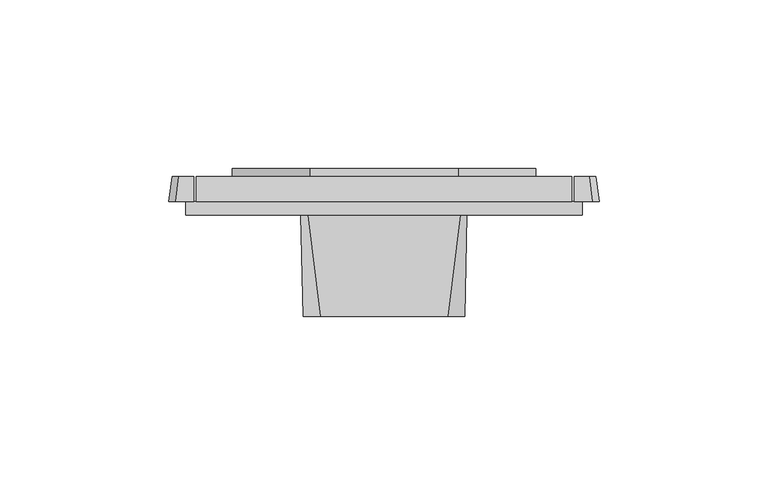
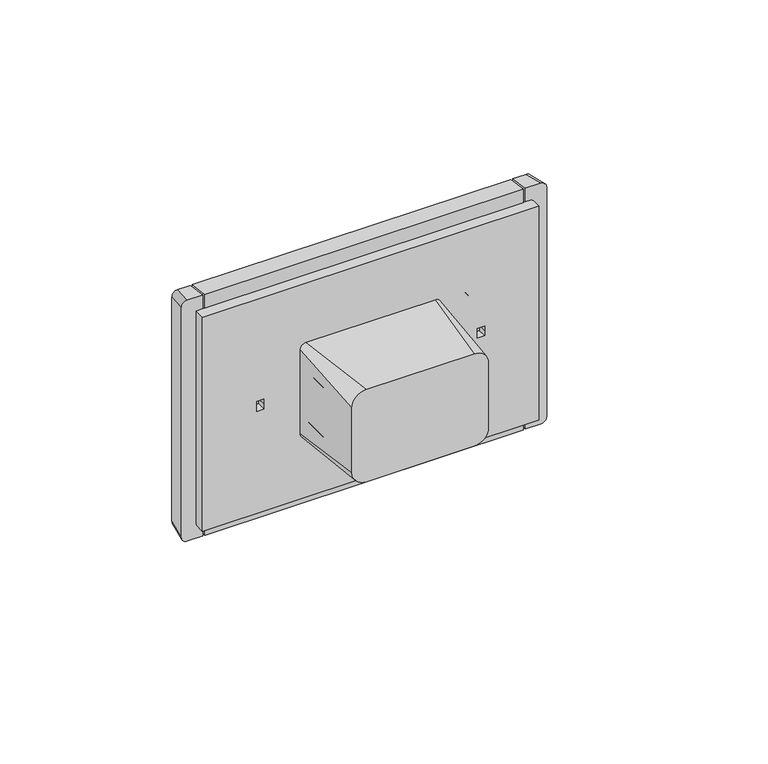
"""IFC4 building model written with IfcOpenShell, lengths in millimetres: proxy geometry, IEK_Forte&Piano_Розекта 2гн : 230В_FP126."""

from ifc_helpers import new_model, si_unit, point, frame, frame_2d, origin, place, context, project, spatial, polyline, circle_curve, ellipse_curve, trimmed, segment, composite_curve, outline, extrude, source, transform, mapped, element, save
from ifc_brep_helpers import plane_surface, cylinder_surface, revolved_surface, extruded_surface, spline_surface, advanced_brep


def electrical_fixtures_b7254b5a(model_context):
    return source(origin(), model_context, "Body", "SolidModel", [
        extrude(outline(composite_curve([segment(trimmed(circle_curve(frame_2d((0.0, -20.5)), 20.0), [point((20.0, -20.5))], [point((-20.0, -20.5))], False, "CARTESIAN"), True, "CONTINUOUS"), segment(trimmed(circle_curve(frame_2d((0.0, -20.5)), 20.0), [point((-20.0, -20.5))], [point((20.0, -20.5))], False, "CARTESIAN"), True, "CONTINUOUS")], self_intersect=False), holes=[composite_curve([segment(trimmed(circle_curve(frame_2d((-9.13292, -20.5)), 2.7424417), [point((-6.3904783, -20.5))], [point((-11.8753617, -20.5))], True, "CARTESIAN"), True, "CONTINUOUS"), segment(trimmed(circle_curve(frame_2d((-9.13292, -20.5)), 2.7424417), [point((-11.8753617, -20.5))], [point((-6.3904783, -20.5))], True, "CARTESIAN"), True, "CONTINUOUS")], self_intersect=False), composite_curve([segment(trimmed(circle_curve(frame_2d((9.13292, -20.5)), 2.7424417), [point((11.8753617, -20.5))], [point((6.3904783, -20.5))], True, "CARTESIAN"), True, "CONTINUOUS"), segment(trimmed(circle_curve(frame_2d((9.13292, -20.5)), 2.7424417), [point((6.3904783, -20.5))], [point((11.8753617, -20.5))], True, "CARTESIAN"), True, "CONTINUOUS")], self_intersect=False), composite_curve([segment(trimmed(circle_curve(frame_2d((0.0, -20.5)), 3.0105286), [point((3.0105286, -20.5))], [point((-3.0105286, -20.5))], True, "CARTESIAN"), True, "CONTINUOUS"), segment(trimmed(circle_curve(frame_2d((0.0, -20.5)), 3.0105286), [point((-3.0105286, -20.5))], [point((3.0105286, -20.5))], True, "CARTESIAN"), True, "CONTINUOUS")], self_intersect=False)]), frame((0.0, 3.5, 0.0), z_axis=(0.0, 1.0, 0.0), x_axis=(0.0, 0.0, 1.0)), (0.0, 0.0, 1.0), 0.5),
        extrude(outline(composite_curve([segment(trimmed(circle_curve(frame_2d((0.0, 20.5)), 20.0), [point((20.0, 20.5))], [point((-20.0, 20.5))], False, "CARTESIAN"), True, "CONTINUOUS"), segment(trimmed(circle_curve(frame_2d((0.0, 20.5)), 20.0), [point((-20.0, 20.5))], [point((20.0, 20.5))], False, "CARTESIAN"), True, "CONTINUOUS")], self_intersect=False), holes=[composite_curve([segment(trimmed(circle_curve(frame_2d((-9.13292, 20.5)), 2.7424417), [point((-6.3904783, 20.5))], [point((-11.8753617, 20.5))], True, "CARTESIAN"), True, "CONTINUOUS"), segment(trimmed(circle_curve(frame_2d((-9.13292, 20.5)), 2.7424417), [point((-11.8753617, 20.5))], [point((-6.3904783, 20.5))], True, "CARTESIAN"), True, "CONTINUOUS")], self_intersect=False), composite_curve([segment(trimmed(circle_curve(frame_2d((9.13292, 20.5)), 2.7424417), [point((11.8753617, 20.5))], [point((6.3904783, 20.5))], True, "CARTESIAN"), True, "CONTINUOUS"), segment(trimmed(circle_curve(frame_2d((9.13292, 20.5)), 2.7424417), [point((6.3904783, 20.5))], [point((11.8753617, 20.5))], True, "CARTESIAN"), True, "CONTINUOUS")], self_intersect=False), composite_curve([segment(trimmed(circle_curve(frame_2d((0.0, 20.5)), 3.0105286), [point((3.0105286, 20.5))], [point((-3.0105286, 20.5))], True, "CARTESIAN"), True, "CONTINUOUS"), segment(trimmed(circle_curve(frame_2d((0.0, 20.5)), 3.0105286), [point((-3.0105286, 20.5))], [point((3.0105286, 20.5))], True, "CARTESIAN"), True, "CONTINUOUS")], self_intersect=False)]), frame((0.0, 3.5, 0.0), z_axis=(0.0, 1.0, 0.0), x_axis=(0.0, 0.0, 1.0)), (0.0, 0.0, 1.0), 0.5),
        advanced_brep(
        [(23.3986917, 3.5, 0.0), (17.6013083, 3.5, 0.0), (23.3986917, 2.3156492, 0.0), (17.6013083, 2.3156492, 0.0), (20.5, 2.3156492, 0.0)],
        [
            (0, 1, circle_curve(frame((20.5, 3.5, 0.0), z_axis=(0.0, 1.0, 0.0), x_axis=(1.0, 0.0, 0.0)), 2.8986917)),
            (1, 0, circle_curve(frame((20.5, 3.5, 0.0), z_axis=(0.0, 1.0, 0.0), x_axis=(1.0, 0.0, 0.0)), 2.8986917)),
            (2, 3, circle_curve(frame((20.5, 2.3156492, 0.0), z_axis=(0.0, 1.0, 0.0), x_axis=(1.0, 0.0, 0.0)), 2.8986917)),
            (3, 1),
            (0, 2),
            (3, 2, circle_curve(frame((20.5, 2.3156492, 0.0), z_axis=(0.0, 1.0, 0.0), x_axis=(1.0, 0.0, 0.0)), 2.8986917)),
            (2, 4),
            (4, 3),
        ],
        [
            plane_surface(frame((-40.5, 3.5, 0.0), z_axis=(0.0, 1.0, 0.0), x_axis=(0.0, 0.0, -1.0))),
            cylinder_surface(frame((20.5, 0.9928358, 0.0), z_axis=(0.0, 1.0, 0.0), x_axis=(1.0, 0.0, 0.0)), 2.8986917),
            plane_surface(frame((20.5, 2.3156492, 0.0), z_axis=(0.0, -1.0, 0.0), x_axis=(1.0, 0.0, 0.0))),
        ],
        [
            (0, [[1, 2]]),
            (1, [[3, 4, -1, 5]]),
            (1, [[6, -5, -2, -4]]),
            (2, [[-3, 7, 8]]),
            (2, [[-6, -8, -7]]),
        ],
    ),
        extrude(outline(composite_curve([segment(trimmed(circle_curve(frame_2d((0.0, 22.0)), 23.0), [point((-23.0, 22.0))], [point((23.0, 22.0))], False, "CARTESIAN"), True, "CONTINUOUS"), segment(polyline([(23.0, 22.0), (23.0, -22.0)]), True, "CONTINUOUS"), segment(trimmed(circle_curve(frame_2d((0.0, -22.0)), 23.0), [point((23.0, -22.0))], [point((-23.0, -22.0))], False, "CARTESIAN"), True, "CONTINUOUS"), segment(polyline([(-23.0, -22.0), (-23.0, 22.0)]), True, "CONTINUOUS")], self_intersect=False), holes=[composite_curve([segment(trimmed(circle_curve(frame_2d((0.0, 20.5)), 20.0), [point((0.0, 40.5))], [point((0.0, 0.5))], True, "CARTESIAN"), True, "CONTINUOUS"), segment(trimmed(circle_curve(frame_2d((0.0, 20.5)), 20.0), [point((0.0, 0.5))], [point((0.0, 40.5))], True, "CARTESIAN"), True, "CONTINUOUS")], self_intersect=False), composite_curve([segment(trimmed(circle_curve(frame_2d((0.0, -20.5)), 20.0), [point((0.0, -0.5))], [point((0.0, -40.5))], True, "CARTESIAN"), True, "CONTINUOUS"), segment(trimmed(circle_curve(frame_2d((0.0, -20.5)), 20.0), [point((0.0, -40.5))], [point((0.0, -0.5))], True, "CARTESIAN"), True, "CONTINUOUS")], self_intersect=False)]), frame((0.0, 11.5, 0.0), z_axis=(0.0, 1.0, 0.0), x_axis=(0.0, 0.0, 1.0)), (0.0, 0.0, 1.0), 2.2960794),
        advanced_brep(
        [(18.8462421, -30.0, -17.0), (23.8462421, -30.0, -12.0), (23.8462421, -30.0, 12.0), (18.8462421, -30.0, 17.0), (-18.8537225, -30.0, 17.0), (-23.8537225, -30.0, 12.0), (-23.8537225, -30.0, -12.0), (-18.8537225, -30.0, -17.0), (22.5422228, 0.0, -17.5), (-22.5960064, 0.0, -17.5), (-24.5960064, 0.0, -15.5), (-24.5960064, 0.0, 15.5), (-22.5960064, 0.0, 17.5), (22.5422228, 0.0, 17.5), (24.5422228, 0.0, 15.5), (24.5422228, 0.0, -15.5), (20.5, 0.0, -6.3904783), (20.5, 0.0, -11.8753617), (20.5, 0.0, 3.0105286), (20.5, 0.0, -3.0105286), (20.5, 0.0, 11.8753617), (20.5, 0.0, 6.3904783), (1.1719153, 0.0, -1.7917908), (3.6719153, 0.0, -1.7917908), (3.6719153, 0.0, 0.0), (3.6719153, 0.0, 1.7917908), (1.1719153, 0.0, 1.7917908), (1.1719153, 0.0, 0.0), (-20.5, 0.0, -6.3904783), (-20.5, 0.0, -11.8753617), (-20.5, 0.0, 3.0105286), (-20.5, 0.0, -3.0105286), (-20.5, 0.0, 11.8753617), (-20.5, 0.0, 6.3904783), (-1.1719153, 0.0, -1.7917908), (-1.1719153, 0.0, 0.0), (-1.1719153, 0.0, 1.7917908), (-3.6719153, 0.0, 1.7917908), (-3.6719153, 0.0, 0.0), (-3.6719153, 0.0, -1.7917908), (20.5, -10.4962918, -6.3904783), (20.5, -10.4962918, -11.8753617), (20.5, -10.4962918, 3.0105286), (20.5, -10.4962918, -3.0105286), (20.5, -10.4962918, 11.8753617), (20.5, -10.4962918, 6.3904783), (1.1719153, -10.4962918, -1.7917908), (1.1719153, -10.4962918, 0.0), (1.1719153, -10.4962918, 1.7917908), (3.6719153, -10.4962918, 1.7917908), (3.6719153, -10.4962918, 0.0), (3.6719153, -10.4962918, -1.7917908), (-20.5, -10.4962918, -6.3904783), (-20.5, -10.4962918, -11.8753617), (-20.5, -10.4962918, 3.0105286), (-20.5, -10.4962918, -3.0105286), (-20.5, -10.4962918, 11.8753617), (-20.5, -10.4962918, 6.3904783), (-1.1719153, -10.4962918, -1.7917908), (-3.6719153, -10.4962918, -1.7917908), (-3.6719153, -10.4962918, 0.0), (-3.6719153, -10.4962918, 1.7917908), (-1.1719153, -10.4962918, 1.7917908), (-1.1719153, -10.4962918, 0.0)],
        [
            (0, 1, circle_curve(frame((18.8462421, -30.0, -12.0), z_axis=(0.0, -1.0, 0.0), x_axis=(0.0, 0.0, -1.0)), 5.0)),
            (1, 2),
            (2, 3, circle_curve(frame((18.8462421, -30.0, 12.0), z_axis=(0.0, -1.0, 0.0), x_axis=(0.0, 0.0, -1.0)), 5.0)),
            (3, 4),
            (4, 5, circle_curve(frame((-18.8537225, -30.0, 12.0), z_axis=(0.0, -1.0, 0.0), x_axis=(0.0, 0.0, -1.0)), 5.0)),
            (5, 6),
            (6, 7, circle_curve(frame((-18.8537225, -30.0, -12.0), z_axis=(0.0, -1.0, 0.0), x_axis=(0.0, 0.0, -1.0)), 5.0)),
            (7, 0),
            (8, 9),
            (9, 10, circle_curve(frame((-22.5960064, 0.0, -15.5), z_axis=(0.0, 1.0, 0.0), x_axis=(0.0, 0.0, -1.0)), 2.0)),
            (10, 11),
            (11, 12, circle_curve(frame((-22.5960064, 0.0, 15.5), z_axis=(0.0, 1.0, 0.0), x_axis=(0.0, 0.0, -1.0)), 2.0)),
            (12, 13),
            (13, 14, circle_curve(frame((22.5422228, 0.0, 15.5), z_axis=(0.0, 1.0, 0.0), x_axis=(0.0, 0.0, -1.0)), 2.0)),
            (14, 15),
            (15, 8, circle_curve(frame((22.5422228, 0.0, -15.5), z_axis=(0.0, 1.0, 0.0), x_axis=(0.0, 0.0, -1.0)), 2.0)),
            (16, 17, circle_curve(frame((20.5, 0.0, -9.13292), z_axis=(0.0, -1.0, 0.0), x_axis=(0.0, 0.0, -1.0)), 2.7424417)),
            (17, 16, circle_curve(frame((20.5, 0.0, -9.13292), z_axis=(0.0, -1.0, 0.0), x_axis=(0.0, 0.0, -1.0)), 2.7424417)),
            (18, 19, circle_curve(frame((20.5, 0.0, 0.0), z_axis=(0.0, -1.0, 0.0), x_axis=(0.0, 0.0, -1.0)), 3.0105286)),
            (19, 18, circle_curve(frame((20.5, 0.0, 0.0), z_axis=(0.0, -1.0, 0.0), x_axis=(0.0, 0.0, -1.0)), 3.0105286)),
            (20, 21, circle_curve(frame((20.5, 0.0, 9.13292), z_axis=(0.0, -1.0, 0.0), x_axis=(0.0, 0.0, -1.0)), 2.7424417)),
            (21, 20, circle_curve(frame((20.5, 0.0, 9.13292), z_axis=(0.0, -1.0, 0.0), x_axis=(0.0, 0.0, -1.0)), 2.7424417)),
            (22, 23),
            (23, 24),
            (24, 25),
            (25, 26),
            (26, 27),
            (27, 22),
            (28, 29, circle_curve(frame((-20.5, 0.0, -9.13292), z_axis=(0.0, -1.0, 0.0), x_axis=(0.0, 0.0, -1.0)), 2.7424417)),
            (29, 28, circle_curve(frame((-20.5, 0.0, -9.13292), z_axis=(0.0, -1.0, 0.0), x_axis=(0.0, 0.0, -1.0)), 2.7424417)),
            (30, 31, circle_curve(frame((-20.5, 0.0, 0.0), z_axis=(0.0, -1.0, 0.0), x_axis=(0.0, 0.0, -1.0)), 3.0105286)),
            (31, 30, circle_curve(frame((-20.5, 0.0, 0.0), z_axis=(0.0, -1.0, 0.0), x_axis=(0.0, 0.0, -1.0)), 3.0105286)),
            (32, 33, circle_curve(frame((-20.5, 0.0, 9.13292), z_axis=(0.0, -1.0, 0.0), x_axis=(0.0, 0.0, -1.0)), 2.7424417)),
            (33, 32, circle_curve(frame((-20.5, 0.0, 9.13292), z_axis=(0.0, -1.0, 0.0), x_axis=(0.0, 0.0, -1.0)), 2.7424417)),
            (34, 35),
            (35, 36),
            (36, 37),
            (37, 38),
            (38, 39),
            (39, 34),
            (7, 9),
            (8, 0),
            (6, 10),
            (5, 11),
            (4, 12),
            (3, 13),
            (15, 1),
            (14, 2),
            (40, 41, circle_curve(frame((20.5, -10.4962918, -9.13292), z_axis=(0.0, 1.0, 0.0), x_axis=(0.0, 0.0, -1.0)), 2.7424417)),
            (41, 40, circle_curve(frame((20.5, -10.4962918, -9.13292), z_axis=(0.0, 1.0, 0.0), x_axis=(0.0, 0.0, -1.0)), 2.7424417)),
            (42, 43, circle_curve(frame((20.5, -10.4962918, 0.0), z_axis=(0.0, 1.0, 0.0), x_axis=(0.0, 0.0, -1.0)), 3.0105286)),
            (43, 42, circle_curve(frame((20.5, -10.4962918, 0.0), z_axis=(0.0, 1.0, 0.0), x_axis=(0.0, 0.0, -1.0)), 3.0105286)),
            (44, 45, circle_curve(frame((20.5, -10.4962918, 9.13292), z_axis=(0.0, 1.0, 0.0), x_axis=(0.0, 0.0, -1.0)), 2.7424417)),
            (45, 44, circle_curve(frame((20.5, -10.4962918, 9.13292), z_axis=(0.0, 1.0, 0.0), x_axis=(0.0, 0.0, -1.0)), 2.7424417)),
            (46, 47),
            (47, 48),
            (48, 49),
            (49, 50),
            (50, 51),
            (51, 46),
            (52, 53, circle_curve(frame((-20.5, -10.4962918, -9.13292), z_axis=(0.0, 1.0, 0.0), x_axis=(0.0, 0.0, -1.0)), 2.7424417)),
            (53, 52, circle_curve(frame((-20.5, -10.4962918, -9.13292), z_axis=(0.0, 1.0, 0.0), x_axis=(0.0, 0.0, -1.0)), 2.7424417)),
            (54, 55, circle_curve(frame((-20.5, -10.4962918, 0.0), z_axis=(0.0, 1.0, 0.0), x_axis=(0.0, 0.0, -1.0)), 3.0105286)),
            (55, 54, circle_curve(frame((-20.5, -10.4962918, 0.0), z_axis=(0.0, 1.0, 0.0), x_axis=(0.0, 0.0, -1.0)), 3.0105286)),
            (56, 57, circle_curve(frame((-20.5, -10.4962918, 9.13292), z_axis=(0.0, 1.0, 0.0), x_axis=(0.0, 0.0, -1.0)), 2.7424417)),
            (57, 56, circle_curve(frame((-20.5, -10.4962918, 9.13292), z_axis=(0.0, 1.0, 0.0), x_axis=(0.0, 0.0, -1.0)), 2.7424417)),
            (58, 59),
            (59, 60),
            (60, 61),
            (61, 62),
            (62, 63),
            (63, 58),
            (41, 17),
            (16, 40),
            (43, 19),
            (18, 42),
            (45, 21),
            (20, 44),
            (51, 23),
            (22, 46),
            (50, 24),
            (49, 25),
            (48, 26),
            (47, 27),
            (53, 29),
            (28, 52),
            (55, 31),
            (30, 54),
            (57, 33),
            (32, 56),
            (63, 35),
            (34, 58),
            (62, 36),
            (61, 37),
            (60, 38),
            (59, 39),
        ],
        [
            plane_surface(frame((-0.0037402, -30.0, 0.0), z_axis=(0.0, -1.0, 0.0), x_axis=(1.0, 0.0, 1.4992810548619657e-12))),
            plane_surface(frame((-0.0268918, 0.0, 0.0), z_axis=(0.0, 1.0, 0.0), x_axis=(1.0, 0.0, 1.4992810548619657e-12))),
            plane_surface(frame((-0.0268918, 0.0, -17.5), z_axis=(0.0, -0.016664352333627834, -0.9998611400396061), x_axis=(1.0, 0.0, 0.0))),
            spline_surface(2, 1, [[(-24.5960064, 0.0, -15.5), (-23.8537225, -30.0, -12.0)], [(-24.5960064, 0.0, -17.5), (-23.8537225, -30.0, -17.0)], [(-22.5960064, 0.0, -17.5), (-18.8537225, -30.0, -17.0)]], [3, 3], [2, 2], [0.0, 1.0], [0.0, 1.0], weights=[[1.0, 1.0], [0.7071067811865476, 0.7071067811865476], [1.0, 1.0]]),
            plane_surface(frame((-24.5960064, 0.0, 0.0), z_axis=(-0.9996940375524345, -0.02473522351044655, 0.0), x_axis=(0.0, 0.0, -1.0))),
            spline_surface(2, 1, [[(-22.5960064, 0.0, 17.5), (-18.8537225, -30.0, 17.0)], [(-24.5960064, 0.0, 17.5), (-23.8537225, -30.0, 17.0)], [(-24.5960064, 0.0, 15.5), (-23.8537225, -30.0, 12.0)]], [3, 3], [2, 2], [0.0, 1.0], [0.0, 1.0], weights=[[1.0, 1.0], [0.7071067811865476, 0.7071067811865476], [1.0, 1.0]]),
            plane_surface(frame((-0.0268918, 0.0, 17.5), z_axis=(0.0, -0.016664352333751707, 0.999861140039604), x_axis=(-1.0, 0.0, 0.0))),
            spline_surface(2, 1, [[(22.5422228, 0.0, -17.5), (18.8462421, -30.0, -17.0)], [(24.5422228, 0.0, -17.5), (23.8462421, -30.0, -17.0)], [(24.5422228, 0.0, -15.5), (23.8462421, -30.0, -12.0)]], [3, 3], [2, 2], [0.0, 1.0], [0.0, 1.0], weights=[[1.0, 1.0], [0.7071067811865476, 0.7071067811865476], [1.0, 1.0]]),
            plane_surface(frame((24.5422228, 0.0, 0.0), z_axis=(0.9997310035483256, -0.023193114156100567, 0.0), x_axis=(0.0, 0.0, 1.0))),
            spline_surface(2, 1, [[(24.5422228, 0.0, 15.5), (23.8462421, -30.0, 12.0)], [(24.5422228, 0.0, 17.5), (23.8462421, -30.0, 17.0)], [(22.5422228, 0.0, 17.5), (18.8462421, -30.0, 17.0)]], [3, 3], [2, 2], [0.0, 1.0], [0.0, 1.0], weights=[[1.0, 1.0], [0.7071067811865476, 0.7071067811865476], [1.0, 1.0]]),
            plane_surface(frame((20.5, -10.4962918, -11.8753617), z_axis=(0.0, 1.0, 0.0), x_axis=(1.0, 0.0, 0.0))),
            revolved_surface(polyline([(20.5, -10.4962918, -11.875361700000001), (20.5, 0.0, -11.875361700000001)]), (20.5, 4.0, -9.13292), (0.0, -1.0, 0.0)),
            revolved_surface(polyline([(20.5, -10.4962918, -3.0105286), (20.5, 0.0, -3.0105286)]), (20.5, 1.0, 0.0), (0.0, -1.0, 0.0)),
            revolved_surface(polyline([(20.5, -10.4962918, 6.3904783), (20.5, 0.0, 6.3904783)]), (20.5, 1.0, 9.13292), (0.0, -1.0, 0.0)),
            plane_surface(frame((1.1719153, -10.4962918, -1.7917908), z_axis=(0.0, 0.0, 1.0), x_axis=(0.0, 1.0, 0.0))),
            plane_surface(frame((3.6719153, -10.4962918, -1.7917908), z_axis=(-1.0, 0.0, 0.0), x_axis=(0.0, 1.0, 0.0))),
            plane_surface(frame((3.6719153, -10.4962918, 0.0), z_axis=(-1.0, 0.0, 0.0), x_axis=(0.0, 1.0, 0.0))),
            plane_surface(frame((3.6719153, -10.4962918, 1.7917908), z_axis=(0.0, 0.0, -1.0), x_axis=(0.0, 1.0, 0.0))),
            plane_surface(frame((1.1719153, -10.4962918, 1.7917908), z_axis=(1.0, 0.0, 0.0), x_axis=(0.0, 1.0, 0.0))),
            plane_surface(frame((1.1719153, -10.4962918, 0.0), z_axis=(1.0, 0.0, 0.0), x_axis=(0.0, 1.0, 0.0))),
            revolved_surface(polyline([(-20.5, -10.4962918, -11.875361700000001), (-20.5, 0.0, -11.875361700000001)]), (-20.5, 1.0, -9.13292), (0.0, -1.0, 0.0)),
            revolved_surface(polyline([(-20.5, -10.4962918, -3.0105286), (-20.5, 0.0, -3.0105286)]), (-20.5, 1.0, 0.0), (0.0, -1.0, 0.0)),
            revolved_surface(polyline([(-20.5, -10.4962918, 6.3904783), (-20.5, 0.0, 6.3904783)]), (-20.5, 1.0, 9.13292), (0.0, -1.0, 0.0)),
            plane_surface(frame((-1.1719153, -10.4962918, -1.7917908), z_axis=(-1.0, 0.0, 0.0), x_axis=(0.0, 1.0, 0.0))),
            plane_surface(frame((-1.1719153, -10.4962918, 0.0), z_axis=(-1.0, 0.0, 0.0), x_axis=(0.0, 1.0, 0.0))),
            plane_surface(frame((-1.1719153, -10.4962918, 1.7917908), z_axis=(0.0, 0.0, -1.0), x_axis=(0.0, 1.0, 0.0))),
            plane_surface(frame((-3.6719153, -10.4962918, 1.7917908), z_axis=(1.0, 0.0, 0.0), x_axis=(0.0, 1.0, 0.0))),
            plane_surface(frame((-3.6719153, -10.4962918, 0.0), z_axis=(1.0, 0.0, 0.0), x_axis=(0.0, 1.0, 0.0))),
            plane_surface(frame((-3.6719153, -10.4962918, -1.7917908), z_axis=(0.0, 0.0, 1.0), x_axis=(0.0, 1.0, 0.0))),
        ],
        [
            (0, [[1, 2, 3, 4, 5, 6, 7, 8]]),
            (1, [[9, 10, 11, 12, 13, 14, 15, 16], [17, 18], [19, 20], [21, 22], [23, 24, 25, 26, 27, 28], [29, 30], [31, 32], [33, 34], [35, 36, 37, 38, 39, 40]]),
            (2, [[-8, 41, -9, 42]]),
            (3, [[-7, 43, -10, -41]]),
            (4, [[-6, 44, -11, -43]]),
            (5, [[-5, 45, -12, -44]]),
            (6, [[-4, 46, -13, -45]]),
            (7, [[-1, -42, -16, 47]]),
            (8, [[-2, -47, -15, 48]]),
            (9, [[-3, -48, -14, -46]]),
            (10, [[49, 50]]),
            (10, [[51, 52]]),
            (10, [[53, 54]]),
            (10, [[55, 56, 57, 58, 59, 60]]),
            (10, [[61, 62]]),
            (10, [[63, 64]]),
            (10, [[65, 66]]),
            (10, [[67, 68, 69, 70, 71, 72]]),
            (11, [[-50, 73, -17, 74]]),
            (11, [[-49, -74, -18, -73]]),
            (12, [[-52, 75, -19, 76]]),
            (12, [[-51, -76, -20, -75]]),
            (13, [[-54, 77, -21, 78]]),
            (13, [[-53, -78, -22, -77]]),
            (14, [[-60, 79, -23, 80]]),
            (15, [[-59, 81, -24, -79]]),
            (16, [[-58, 82, -25, -81]]),
            (17, [[-57, 83, -26, -82]]),
            (18, [[-56, 84, -27, -83]]),
            (19, [[-55, -80, -28, -84]]),
            (20, [[-62, 85, -29, 86]]),
            (20, [[-61, -86, -30, -85]]),
            (21, [[-64, 87, -31, 88]]),
            (21, [[-63, -88, -32, -87]]),
            (22, [[-66, 89, -33, 90]]),
            (22, [[-65, -90, -34, -89]]),
            (23, [[-72, 91, -35, 92]]),
            (24, [[-71, 93, -36, -91]]),
            (25, [[-70, 94, -37, -93]]),
            (26, [[-69, 95, -38, -94]]),
            (27, [[-68, 96, -39, -95]]),
            (28, [[-67, -92, -40, -96]]),
        ],
    ),
        advanced_brep(
        [(-20.5, 4.8805573, 0.0), (-17.6013083, 4.0937742, 0.0), (-23.3986917, 4.0937742, 0.0), (-17.6013083, 2.3156492, 0.0), (-23.3986917, 2.3156492, 0.0), (-20.5, 2.3156492, 0.0)],
        [
            (0, 1, ellipse_curve(frame((-20.34375, 4.0937742, 0.0), z_axis=(0.0, 0.0, -1.0), x_axis=(1.0, 0.0, 0.0)), 2.7424417, 0.7880633)),
            (1, 2, circle_curve(frame((-20.5, 4.0937742, 0.0), z_axis=(0.0, 1.0, 0.0), x_axis=(1.0, 0.0, 0.0)), 2.8986917)),
            (2, 0, ellipse_curve(frame((-20.65625, 4.0937742, 0.0), z_axis=(0.0, 0.0, -1.0), x_axis=(-1.0, 0.0, 0.0)), 2.7424417, 0.7880633)),
            (2, 1, circle_curve(frame((-20.5, 4.0937742, 0.0), z_axis=(0.0, 1.0, 0.0), x_axis=(1.0, 0.0, 0.0)), 2.8986917)),
            (1, 3),
            (3, 4, circle_curve(frame((-20.5, 2.3156492, 0.0), z_axis=(0.0, 1.0, 0.0), x_axis=(1.0, 0.0, 0.0)), 2.8986917)),
            (4, 2),
            (4, 3, circle_curve(frame((-20.5, 2.3156492, 0.0), z_axis=(0.0, 1.0, 0.0), x_axis=(1.0, 0.0, 0.0)), 2.8986917)),
            (3, 5),
            (5, 4),
        ],
        [
            revolved_surface(trimmed(ellipse_curve(frame((-20.34375, 4.0937742, 0.0), z_axis=(0.0, 0.0, 1.0), x_axis=(1.0, 0.0, 0.0)), 2.7424417, 0.7880633), [point((-17.6013083, 4.0937742, 0.0))], [point((-20.5, 4.8805573, 0.0))], True, "CARTESIAN"), (-20.5, 0.9928358, 0.0), (0.0, 1.0, 0.0)),
            cylinder_surface(frame((-20.5, 0.9928358, 0.0), z_axis=(0.0, 1.0, 0.0), x_axis=(1.0, 0.0, 0.0)), 2.8986917),
            plane_surface(frame((-20.5, 2.3156492, 0.0), z_axis=(0.0, -1.0, 0.0), x_axis=(1.0, 0.0, 0.0))),
        ],
        [
            (0, [[1, 2, 3]]),
            (0, [[-3, 4, -1]]),
            (1, [[-2, 5, 6, 7]]),
            (1, [[-4, -7, 8, -5]]),
            (2, [[-6, 9, 10]]),
            (2, [[-8, -10, -9]]),
        ],
    ),
        advanced_brep(
        [(60.75, 11.5, 43.5), (62.75, 11.5, 41.5), (62.75, 11.5, -41.5), (60.75, 11.5, -43.5), (56.3576533, 11.5, -43.5), (56.3576533, 11.5, 43.5), (-60.75, 11.5, -43.5), (-62.75, 11.5, -41.5), (-62.75, 11.5, 41.5), (-60.75, 11.5, 43.5), (-56.3576533, 11.5, 43.5), (-56.3576533, 11.5, -43.5), (-55.5728499, 11.5, 43.5), (55.5728499, 11.5, 43.5), (55.5728499, 11.5, -43.5), (-55.5728499, 11.5, -43.5), (-0.5, 11.5, 0.0), (-40.5, 11.5, 0.0), (40.5, 11.5, 0.0), (0.5, 11.5, 0.0), (-61.75, 4.0, 44.5), (-63.75, 4.0, 42.5), (-63.75, 4.0, -42.5), (-61.75, 4.0, -44.5), (-56.3576533, 4.0, -44.5), (-56.3576533, 4.0, -39.5), (-58.75, 4.0, -39.5), (-58.75, 4.0, 39.5), (-56.3576533, 4.0, 39.5), (-56.3576533, 4.0, 44.5), (61.75, 4.0, -44.5), (63.75, 4.0, -42.5), (63.75, 4.0, 42.5), (61.75, 4.0, 44.5), (56.3576533, 4.0, 44.5), (56.3576533, 4.0, 39.5), (58.75, 4.0, 39.5), (58.75, 4.0, -39.5), (56.3576533, 4.0, -39.5), (56.3576533, 4.0, -44.5), (-55.5728499, 4.0, 39.5), (55.5728499, 4.0, 39.5), (55.5728499, 4.0, 44.5), (-55.5728499, 4.0, 44.5), (55.5728499, 4.0, -39.5), (-55.5728499, 4.0, -39.5), (-55.5728499, 4.0, -44.5), (55.5728499, 4.0, -44.5), (-58.75, 0.0, 39.5), (-58.75, 0.0, -39.5), (58.75, 0.0, -39.5), (58.75, 0.0, 39.5), (20.5, 0.0, -11.8753617), (20.5, 0.0, -6.3904783), (20.5, 0.0, -3.0105286), (20.5, 0.0, 3.0105286), (20.5, 0.0, 6.3904783), (20.5, 0.0, 11.8753617), (39.8280847, 0.0, 0.0), (39.8280847, 0.0, -1.7917908), (37.3280847, 0.0, -1.7917908), (37.3280847, 0.0, 0.0), (37.3280847, 0.0, 1.7917908), (39.8280847, 0.0, 1.7917908), (3.6719153, 0.0, -1.7917908), (1.1719153, 0.0, -1.7917908), (1.1719153, 0.0, 0.0), (1.1719153, 0.0, 1.7917908), (3.6719153, 0.0, 1.7917908), (3.6719153, 0.0, 0.0), (-20.5, 0.0, -11.8753617), (-20.5, 0.0, -6.3904783), (-20.5, 0.0, -3.0105286), (-20.5, 0.0, 3.0105286), (-20.5, 0.0, 6.3904783), (-20.5, 0.0, 11.8753617), (-37.3280847, 0.0, -1.7917908), (-39.8280847, 0.0, -1.7917908), (-39.8280847, 0.0, 0.0), (-39.8280847, 0.0, 1.7917908), (-37.3280847, 0.0, 1.7917908), (-37.3280847, 0.0, 0.0), (-1.1719153, 0.0, 0.0), (-1.1719153, 0.0, -1.7917908), (-3.6719153, 0.0, -1.7917908), (-3.6719153, 0.0, 0.0), (-3.6719153, 0.0, 1.7917908), (-1.1719153, 0.0, 1.7917908), (20.5, 3.5, -11.8753617), (20.5, 3.5, -6.3904783), (20.5, 3.5, -3.0105286), (20.5, 3.5, 3.0105286), (20.5, 3.5, 6.3904783), (20.5, 3.5, 11.8753617), (39.8280847, 3.5, 0.0), (39.8280847, 3.5, -1.7917908), (39.8280847, 3.5, 1.7917908), (37.3280847, 3.5, 1.7917908), (37.3280847, 3.5, 0.0), (37.3280847, 3.5, -1.7917908), (3.6719153, 3.5, -1.7917908), (1.1719153, 3.5, -1.7917908), (3.6719153, 3.5, 0.0), (3.6719153, 3.5, 1.7917908), (1.1719153, 3.5, 1.7917908), (1.1719153, 3.5, 0.0), (-20.5, 3.5, -11.8753617), (-20.5, 3.5, -6.3904783), (-20.5, 3.5, -3.0105286), (-20.5, 3.5, 3.0105286), (-20.5, 3.5, 6.3904783), (-20.5, 3.5, 11.8753617), (-37.3280847, 3.5, -1.7917908), (-39.8280847, 3.5, -1.7917908), (-37.3280847, 3.5, 0.0), (-37.3280847, 3.5, 1.7917908), (-39.8280847, 3.5, 1.7917908), (-39.8280847, 3.5, 0.0), (-1.1719153, 3.5, 0.0), (-1.1719153, 3.5, -1.7917908), (-1.1719153, 3.5, 1.7917908), (-3.6719153, 3.5, 1.7917908), (-3.6719153, 3.5, 0.0), (-3.6719153, 3.5, -1.7917908), (-0.5, 3.5, 0.0), (-40.5, 3.5, 0.0), (40.5, 3.5, 0.0), (0.5, 3.5, 0.0)],
        [
            (0, 1, circle_curve(frame((60.75, 11.5, 41.5), z_axis=(0.0, 1.0, 0.0), x_axis=(-1.0, 0.0, 0.0)), 2.0)),
            (1, 2),
            (2, 3, circle_curve(frame((60.75, 11.5, -41.5), z_axis=(0.0, 1.0, 0.0), x_axis=(-1.0, 0.0, 0.0)), 2.0)),
            (3, 4),
            (4, 5),
            (5, 0),
            (6, 7, circle_curve(frame((-60.75, 11.5, -41.5), z_axis=(0.0, 1.0, 0.0), x_axis=(-1.0, 0.0, 0.0)), 2.0)),
            (7, 8),
            (8, 9, circle_curve(frame((-60.75, 11.5, 41.5), z_axis=(0.0, 1.0, 0.0), x_axis=(-1.0, 0.0, 0.0)), 2.0)),
            (9, 10),
            (10, 11),
            (11, 6),
            (12, 13),
            (13, 14),
            (14, 15),
            (15, 12),
            (16, 17, circle_curve(frame((-20.5, 11.5, 0.0), z_axis=(0.0, -1.0, 0.0), x_axis=(-1.0, 0.0, 0.0)), 20.0)),
            (17, 16, circle_curve(frame((-20.5, 11.5, 0.0), z_axis=(0.0, -1.0, 0.0), x_axis=(-1.0, 0.0, 0.0)), 20.0)),
            (18, 19, circle_curve(frame((20.5, 11.5, 0.0), z_axis=(0.0, -1.0, 0.0), x_axis=(-1.0, 0.0, 0.0)), 20.0)),
            (19, 18, circle_curve(frame((20.5, 11.5, 0.0), z_axis=(0.0, -1.0, 0.0), x_axis=(-1.0, 0.0, 0.0)), 20.0)),
            (20, 21, circle_curve(frame((-61.75, 4.0, 42.5), z_axis=(0.0, -1.0, 0.0), x_axis=(-1.0, 0.0, 0.0)), 2.0)),
            (21, 22),
            (22, 23, circle_curve(frame((-61.75, 4.0, -42.5), z_axis=(0.0, -1.0, 0.0), x_axis=(-1.0, 0.0, 0.0)), 2.0)),
            (23, 24),
            (24, 25),
            (25, 26),
            (26, 27),
            (27, 28),
            (28, 29),
            (29, 20),
            (30, 31, circle_curve(frame((61.75, 4.0, -42.5), z_axis=(0.0, -1.0, 0.0), x_axis=(-1.0, 0.0, 0.0)), 2.0)),
            (31, 32),
            (32, 33, circle_curve(frame((61.75, 4.0, 42.5), z_axis=(0.0, -1.0, 0.0), x_axis=(-1.0, 0.0, 0.0)), 2.0)),
            (33, 34),
            (34, 35),
            (35, 36),
            (36, 37),
            (37, 38),
            (38, 39),
            (39, 30),
            (40, 41),
            (41, 42),
            (42, 43),
            (43, 40),
            (44, 45),
            (45, 46),
            (46, 47),
            (47, 44),
            (12, 43),
            (42, 13),
            (33, 0),
            (5, 34),
            (9, 20),
            (29, 10),
            (32, 1),
            (31, 2),
            (30, 3),
            (14, 47),
            (46, 15),
            (39, 4),
            (23, 6),
            (11, 24),
            (22, 7),
            (21, 8),
            (48, 49),
            (49, 50),
            (50, 51),
            (51, 48),
            (52, 53, circle_curve(frame((20.5, 0.0, -9.13292), z_axis=(0.0, 1.0, 0.0), x_axis=(0.0, 0.0, -1.0)), 2.7424417)),
            (53, 52, circle_curve(frame((20.5, 0.0, -9.13292), z_axis=(0.0, 1.0, 0.0), x_axis=(0.0, 0.0, -1.0)), 2.7424417)),
            (54, 55, circle_curve(frame((20.5, 0.0, 0.0), z_axis=(0.0, 1.0, 0.0), x_axis=(0.0, 0.0, -1.0)), 3.0105286)),
            (55, 54, circle_curve(frame((20.5, 0.0, 0.0), z_axis=(0.0, 1.0, 0.0), x_axis=(0.0, 0.0, -1.0)), 3.0105286)),
            (56, 57, circle_curve(frame((20.5, 0.0, 9.13292), z_axis=(0.0, 1.0, 0.0), x_axis=(0.0, 0.0, -1.0)), 2.7424417)),
            (57, 56, circle_curve(frame((20.5, 0.0, 9.13292), z_axis=(0.0, 1.0, 0.0), x_axis=(0.0, 0.0, -1.0)), 2.7424417)),
            (58, 59),
            (59, 60),
            (60, 61),
            (61, 62),
            (62, 63),
            (63, 58),
            (64, 65),
            (65, 66),
            (66, 67),
            (67, 68),
            (68, 69),
            (69, 64),
            (70, 71, circle_curve(frame((-20.5, 0.0, -9.13292), z_axis=(0.0, 1.0, 0.0), x_axis=(0.0, 0.0, -1.0)), 2.7424417)),
            (71, 70, circle_curve(frame((-20.5, 0.0, -9.13292), z_axis=(0.0, 1.0, 0.0), x_axis=(0.0, 0.0, -1.0)), 2.7424417)),
            (72, 73, circle_curve(frame((-20.5, 0.0, 0.0), z_axis=(0.0, 1.0, 0.0), x_axis=(0.0, 0.0, -1.0)), 3.0105286)),
            (73, 72, circle_curve(frame((-20.5, 0.0, 0.0), z_axis=(0.0, 1.0, 0.0), x_axis=(0.0, 0.0, -1.0)), 3.0105286)),
            (74, 75, circle_curve(frame((-20.5, 0.0, 9.13292), z_axis=(0.0, 1.0, 0.0), x_axis=(0.0, 0.0, -1.0)), 2.7424417)),
            (75, 74, circle_curve(frame((-20.5, 0.0, 9.13292), z_axis=(0.0, 1.0, 0.0), x_axis=(0.0, 0.0, -1.0)), 2.7424417)),
            (76, 77),
            (77, 78),
            (78, 79),
            (79, 80),
            (80, 81),
            (81, 76),
            (82, 83),
            (83, 84),
            (84, 85),
            (85, 86),
            (86, 87),
            (87, 82),
            (48, 27),
            (26, 49),
            (25, 45),
            (44, 38),
            (37, 50),
            (36, 51),
            (35, 41),
            (40, 28),
            (52, 88),
            (88, 89, circle_curve(frame((20.5, 3.5, -9.13292), z_axis=(0.0, 1.0, 0.0), x_axis=(0.0, 0.0, -1.0)), 2.7424417)),
            (89, 53),
            (89, 88, circle_curve(frame((20.5, 3.5, -9.13292), z_axis=(0.0, 1.0, 0.0), x_axis=(0.0, 0.0, -1.0)), 2.7424417)),
            (54, 90),
            (90, 91, circle_curve(frame((20.5, 3.5, 0.0), z_axis=(0.0, 1.0, 0.0), x_axis=(0.0, 0.0, -1.0)), 3.0105286)),
            (91, 55),
            (91, 90, circle_curve(frame((20.5, 3.5, 0.0), z_axis=(0.0, 1.0, 0.0), x_axis=(0.0, 0.0, -1.0)), 3.0105286)),
            (56, 92),
            (92, 93, circle_curve(frame((20.5, 3.5, 9.13292), z_axis=(0.0, 1.0, 0.0), x_axis=(0.0, 0.0, -1.0)), 2.7424417)),
            (93, 57),
            (93, 92, circle_curve(frame((20.5, 3.5, 9.13292), z_axis=(0.0, 1.0, 0.0), x_axis=(0.0, 0.0, -1.0)), 2.7424417)),
            (58, 94),
            (94, 95),
            (95, 59),
            (63, 96),
            (96, 94),
            (62, 97),
            (97, 96),
            (61, 98),
            (98, 97),
            (60, 99),
            (99, 98),
            (95, 99),
            (64, 100),
            (100, 101),
            (101, 65),
            (69, 102),
            (102, 100),
            (68, 103),
            (103, 102),
            (67, 104),
            (104, 103),
            (66, 105),
            (105, 104),
            (101, 105),
            (70, 106),
            (106, 107, circle_curve(frame((-20.5, 3.5, -9.13292), z_axis=(0.0, 1.0, 0.0), x_axis=(0.0, 0.0, -1.0)), 2.7424417)),
            (107, 71),
            (107, 106, circle_curve(frame((-20.5, 3.5, -9.13292), z_axis=(0.0, 1.0, 0.0), x_axis=(0.0, 0.0, -1.0)), 2.7424417)),
            (72, 108),
            (108, 109, circle_curve(frame((-20.5, 3.5, 0.0), z_axis=(0.0, 1.0, 0.0), x_axis=(0.0, 0.0, -1.0)), 3.0105286)),
            (109, 73),
            (109, 108, circle_curve(frame((-20.5, 3.5, 0.0), z_axis=(0.0, 1.0, 0.0), x_axis=(0.0, 0.0, -1.0)), 3.0105286)),
            (74, 110),
            (110, 111, circle_curve(frame((-20.5, 3.5, 9.13292), z_axis=(0.0, 1.0, 0.0), x_axis=(0.0, 0.0, -1.0)), 2.7424417)),
            (111, 75),
            (111, 110, circle_curve(frame((-20.5, 3.5, 9.13292), z_axis=(0.0, 1.0, 0.0), x_axis=(0.0, 0.0, -1.0)), 2.7424417)),
            (76, 112),
            (112, 113),
            (113, 77),
            (81, 114),
            (114, 112),
            (80, 115),
            (115, 114),
            (79, 116),
            (116, 115),
            (78, 117),
            (117, 116),
            (113, 117),
            (82, 118),
            (118, 119),
            (119, 83),
            (87, 120),
            (120, 118),
            (86, 121),
            (121, 120),
            (85, 122),
            (122, 121),
            (84, 123),
            (123, 122),
            (119, 123),
            (124, 125, circle_curve(frame((-20.5, 3.5, 0.0), z_axis=(0.0, 1.0, 0.0), x_axis=(-1.0, 0.0, 0.0)), 20.0)),
            (125, 124, circle_curve(frame((-20.5, 3.5, 0.0), z_axis=(0.0, 1.0, 0.0), x_axis=(-1.0, 0.0, 0.0)), 20.0)),
            (126, 127, circle_curve(frame((20.5, 3.5, 0.0), z_axis=(0.0, 1.0, 0.0), x_axis=(-1.0, 0.0, 0.0)), 20.0)),
            (127, 126, circle_curve(frame((20.5, 3.5, 0.0), z_axis=(0.0, 1.0, 0.0), x_axis=(-1.0, 0.0, 0.0)), 20.0)),
            (125, 17),
            (16, 124),
            (127, 19),
            (18, 126),
            (25, 28),
            (40, 45),
            (44, 41),
            (35, 38),
        ],
        [
            plane_surface(frame((0.0, 11.5, 0.0), z_axis=(0.0, 1.0, 0.0), x_axis=(1.0, 0.0, 0.0))),
            plane_surface(frame((0.0, 4.0, 0.0), z_axis=(0.0, -1.0, 0.0), x_axis=(1.0, 0.0, 0.0))),
            plane_surface(frame((0.0, 4.0, 44.5), z_axis=(0.0, 0.13216372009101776, 0.9912279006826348), x_axis=(1.0, 0.0, 0.0))),
            extruded_surface(trimmed(circle_curve(frame((61.75, 4.0, 42.5), z_axis=(0.0, 1.0, 0.0), x_axis=(-1.0, 0.0, 0.0)), 2.0), [point((61.75, 4.0, 44.5))], [point((63.75, 4.0, 42.5))], True, "CARTESIAN"), (-1.0, 7.5, -1.0), 7.632168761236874),
            plane_surface(frame((63.75, 4.0, 0.0), z_axis=(0.9912279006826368, 0.13216372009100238, 0.0), x_axis=(0.0, 0.0, -1.0))),
            extruded_surface(trimmed(circle_curve(frame((61.75, 4.0, -42.5), z_axis=(0.0, 1.0, 0.0), x_axis=(-1.0, 0.0, 0.0)), 2.0), [point((63.75, 4.0, -42.5))], [point((61.75, 4.0, -44.5))], True, "CARTESIAN"), (-1.0, 7.5, 1.0), 7.632168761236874),
            plane_surface(frame((0.0, 4.0, -44.5), z_axis=(0.0, 0.13216372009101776, -0.9912279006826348), x_axis=(-1.0, 0.0, 0.0))),
            extruded_surface(trimmed(circle_curve(frame((-61.75, 4.0, -42.5), z_axis=(0.0, 1.0, 0.0), x_axis=(-1.0, 0.0, 0.0)), 2.0), [point((-61.75, 4.0, -44.5))], [point((-63.75, 4.0, -42.5))], True, "CARTESIAN"), (1.0, 7.5, 1.0), 7.632168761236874),
            plane_surface(frame((-63.75, 4.0, 0.0), z_axis=(-0.9912279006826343, 0.13216372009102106, 0.0), x_axis=(0.0, 0.0, 1.0))),
            extruded_surface(trimmed(circle_curve(frame((-61.75, 4.0, 42.5), z_axis=(0.0, 1.0, 0.0), x_axis=(-1.0, 0.0, 0.0)), 2.0), [point((-63.75, 4.0, 42.5))], [point((-61.75, 4.0, 44.5))], True, "CARTESIAN"), (1.0, 7.5, -1.0), 7.632168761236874),
            plane_surface(frame((-58.75, 0.0, 39.5), z_axis=(0.0, -1.0, 0.0), x_axis=(0.0, 0.0, -1.0))),
            plane_surface(frame((-58.75, 0.0, 39.5), z_axis=(-1.0, 0.0, 0.0), x_axis=(0.0, 1.0, 0.0))),
            plane_surface(frame((-58.75, 0.0, -39.5), z_axis=(0.0, 0.0, -1.0), x_axis=(0.0, 1.0, 0.0))),
            plane_surface(frame((58.75, 0.0, -39.5), z_axis=(1.0, 0.0, 0.0), x_axis=(0.0, 1.0, 0.0))),
            plane_surface(frame((58.75, 0.0, 39.5), z_axis=(0.0, 0.0, 1.0), x_axis=(0.0, 1.0, 0.0))),
            revolved_surface(polyline([(20.5, 0.0, -11.875361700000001), (20.5, 3.5, -11.875361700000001)]), (20.5, 4.0, -9.13292), (0.0, -1.0, 0.0)),
            revolved_surface(polyline([(20.5, 0.0, -3.0105286), (20.5, 3.5, -3.0105286)]), (20.5, 1.0, 0.0), (0.0, -1.0, 0.0)),
            revolved_surface(polyline([(20.5, 0.0, 6.3904783), (20.5, 3.5, 6.3904783)]), (20.5, 1.0, 9.13292), (0.0, -1.0, 0.0)),
            plane_surface(frame((39.8280847, -10.4962918, -1.7917908), z_axis=(-1.0, 0.0, 0.0), x_axis=(0.0, 1.0, 0.0))),
            plane_surface(frame((39.8280847, -10.4962918, 0.0), z_axis=(-1.0, 0.0, 0.0), x_axis=(0.0, 1.0, 0.0))),
            plane_surface(frame((39.8280847, -10.4962918, 1.7917908), z_axis=(0.0, 0.0, -1.0), x_axis=(0.0, 1.0, 0.0))),
            plane_surface(frame((37.3280847, -10.4962918, 1.7917908), z_axis=(1.0, 0.0, 0.0), x_axis=(0.0, 1.0, 0.0))),
            plane_surface(frame((37.3280847, -10.4962918, 0.0), z_axis=(1.0, 0.0, 0.0), x_axis=(0.0, 1.0, 0.0))),
            plane_surface(frame((37.3280847, -10.4962918, -1.7917908), z_axis=(0.0, 0.0, 1.0), x_axis=(0.0, 1.0, 0.0))),
            plane_surface(frame((1.1719153, -10.4962918, -1.7917908), z_axis=(0.0, 0.0, 1.0), x_axis=(0.0, 1.0, 0.0))),
            plane_surface(frame((3.6719153, -10.4962918, -1.7917908), z_axis=(-1.0, 0.0, 0.0), x_axis=(0.0, 1.0, 0.0))),
            plane_surface(frame((3.6719153, -10.4962918, 0.0), z_axis=(-1.0, 0.0, 0.0), x_axis=(0.0, 1.0, 0.0))),
            plane_surface(frame((3.6719153, -10.4962918, 1.7917908), z_axis=(0.0, 0.0, -1.0), x_axis=(0.0, 1.0, 0.0))),
            plane_surface(frame((1.1719153, -10.4962918, 1.7917908), z_axis=(1.0, 0.0, 0.0), x_axis=(0.0, 1.0, 0.0))),
            plane_surface(frame((1.1719153, -10.4962918, 0.0), z_axis=(1.0, 0.0, 0.0), x_axis=(0.0, 1.0, 0.0))),
            revolved_surface(polyline([(-20.5, 0.0, -11.875361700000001), (-20.5, 3.5, -11.875361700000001)]), (-20.5, 1.0, -9.13292), (0.0, -1.0, 0.0)),
            revolved_surface(polyline([(-20.5, 0.0, -3.0105286), (-20.5, 3.5, -3.0105286)]), (-20.5, 1.0, 0.0), (0.0, -1.0, 0.0)),
            revolved_surface(polyline([(-20.5, 0.0, 6.3904783), (-20.5, 3.5, 6.3904783)]), (-20.5, 1.0, 9.13292), (0.0, -1.0, 0.0)),
            plane_surface(frame((-39.8280847, -10.4962918, -1.7917908), z_axis=(0.0, 0.0, 1.0), x_axis=(0.0, 1.0, 0.0))),
            plane_surface(frame((-37.3280847, -10.4962918, -1.7917908), z_axis=(-1.0, 0.0, 0.0), x_axis=(0.0, 1.0, 0.0))),
            plane_surface(frame((-37.3280847, -10.4962918, 0.0), z_axis=(-1.0, 0.0, 0.0), x_axis=(0.0, 1.0, 0.0))),
            plane_surface(frame((-37.3280847, -10.4962918, 1.7917908), z_axis=(0.0, 0.0, -1.0), x_axis=(0.0, 1.0, 0.0))),
            plane_surface(frame((-39.8280847, -10.4962918, 1.7917908), z_axis=(1.0, 0.0, 0.0), x_axis=(0.0, 1.0, 0.0))),
            plane_surface(frame((-39.8280847, -10.4962918, 0.0), z_axis=(1.0, 0.0, 0.0), x_axis=(0.0, 1.0, 0.0))),
            plane_surface(frame((-1.1719153, -10.4962918, -1.7917908), z_axis=(-1.0, 0.0, 0.0), x_axis=(0.0, 1.0, 0.0))),
            plane_surface(frame((-1.1719153, -10.4962918, 0.0), z_axis=(-1.0, 0.0, 0.0), x_axis=(0.0, 1.0, 0.0))),
            plane_surface(frame((-1.1719153, -10.4962918, 1.7917908), z_axis=(0.0, 0.0, -1.0), x_axis=(0.0, 1.0, 0.0))),
            plane_surface(frame((-3.6719153, -10.4962918, 1.7917908), z_axis=(1.0, 0.0, 0.0), x_axis=(0.0, 1.0, 0.0))),
            plane_surface(frame((-3.6719153, -10.4962918, 0.0), z_axis=(1.0, 0.0, 0.0), x_axis=(0.0, 1.0, 0.0))),
            plane_surface(frame((-3.6719153, -10.4962918, -1.7917908), z_axis=(0.0, 0.0, 1.0), x_axis=(0.0, 1.0, 0.0))),
            plane_surface(frame((-40.5, 3.5, 0.0), z_axis=(0.0, 1.0, 0.0), x_axis=(0.0, 0.0, -1.0))),
            revolved_surface(polyline([(-40.5, 11.5, 0.0), (-40.5, 3.5, 0.0)]), (-20.5, 3.5, 0.0), (0.0, 1.0, 0.0)),
            revolved_surface(polyline([(0.5, 11.5, 0.0), (0.5, 3.5, 0.0)]), (20.5, 3.0, 0.0), (0.0, 1.0, 0.0)),
            plane_surface(frame((-56.3576533, 4.0, 44.5), z_axis=(0.0, 1.0, 0.0), x_axis=(0.0, 0.0, -1.0))),
            plane_surface(frame((-56.3576533, 11.5, -44.5), z_axis=(1.0, 0.0, 0.0), x_axis=(0.0, -1.0, 0.0))),
            plane_surface(frame((-55.5728499, 11.5, 44.5), z_axis=(-1.0, 0.0, 0.0), x_axis=(0.0, -1.0, 0.0))),
            plane_surface(frame((55.5728499, 11.5, -44.5), z_axis=(1.0, 0.0, 0.0), x_axis=(0.0, -1.0, 0.0))),
            plane_surface(frame((56.3576533, 11.5, 44.5), z_axis=(-1.0, 0.0, 0.0), x_axis=(0.0, -1.0, 0.0))),
        ],
        [
            (0, [[1, 2, 3, 4, 5, 6]]),
            (0, [[7, 8, 9, 10, 11, 12]]),
            (0, [[13, 14, 15, 16], [17, 18], [19, 20]]),
            (1, [[21, 22, 23, 24, 25, 26, 27, 28, 29, 30]]),
            (1, [[31, 32, 33, 34, 35, 36, 37, 38, 39, 40]]),
            (1, [[41, 42, 43, 44]]),
            (1, [[45, 46, 47, 48]]),
            (2, [[-13, 49, -43, 50]]),
            (2, [[51, -6, 52, -34]]),
            (2, [[53, -30, 54, -10]]),
            (3, [[-1, -51, -33, 55]]),
            (4, [[-2, -55, -32, 56]]),
            (5, [[-3, -56, -31, 57]]),
            (6, [[-15, 58, -47, 59]]),
            (6, [[-57, -40, 60, -4]]),
            (6, [[61, -12, 62, -24]]),
            (7, [[-7, -61, -23, 63]]),
            (8, [[-8, -63, -22, 64]]),
            (9, [[-9, -64, -21, -53]]),
            (10, [[65, 66, 67, 68], [69, 70], [71, 72], [73, 74], [75, 76, 77, 78, 79, 80], [81, 82, 83, 84, 85, 86], [87, 88], [89, 90], [91, 92], [93, 94, 95, 96, 97, 98], [99, 100, 101, 102, 103, 104]]),
            (11, [[-65, 105, -27, 106]]),
            (12, [[-66, -106, -26, 107, -45, 108, -38, 109]]),
            (13, [[-67, -109, -37, 110]]),
            (14, [[-68, -110, -36, 111, -41, 112, -28, -105]]),
            (15, [[-69, 113, 114, 115]]),
            (15, [[-70, -115, 116, -113]]),
            (16, [[-71, 117, 118, 119]]),
            (16, [[-72, -119, 120, -117]]),
            (17, [[-73, 121, 122, 123]]),
            (17, [[-74, -123, 124, -121]]),
            (18, [[-75, 125, 126, 127]]),
            (19, [[-80, 128, 129, -125]]),
            (20, [[-79, 130, 131, -128]]),
            (21, [[-78, 132, 133, -130]]),
            (22, [[-77, 134, 135, -132]]),
            (23, [[-76, -127, 136, -134]]),
            (24, [[-81, 137, 138, 139]]),
            (25, [[-86, 140, 141, -137]]),
            (26, [[-85, 142, 143, -140]]),
            (27, [[-84, 144, 145, -142]]),
            (28, [[-83, 146, 147, -144]]),
            (29, [[-82, -139, 148, -146]]),
            (30, [[-87, 149, 150, 151]]),
            (30, [[-88, -151, 152, -149]]),
            (31, [[-89, 153, 154, 155]]),
            (31, [[-90, -155, 156, -153]]),
            (32, [[-91, 157, 158, 159]]),
            (32, [[-92, -159, 160, -157]]),
            (33, [[-93, 161, 162, 163]]),
            (34, [[-98, 164, 165, -161]]),
            (35, [[-97, 166, 167, -164]]),
            (36, [[-96, 168, 169, -166]]),
            (37, [[-95, 170, 171, -168]]),
            (38, [[-94, -163, 172, -170]]),
            (39, [[-99, 173, 174, 175]]),
            (40, [[-104, 176, 177, -173]]),
            (41, [[-103, 178, 179, -176]]),
            (42, [[-102, 180, 181, -178]]),
            (43, [[-101, 182, 183, -180]]),
            (44, [[-100, -175, 184, -182]]),
            (45, [[185, 186], [-150, -152], [-154, -156], [-158, -160], [-162, -165, -167, -169, -171, -172], [-174, -177, -179, -181, -183, -184]]),
            (45, [[187, 188], [-114, -116], [-118, -120], [-122, -124], [-126, -129, -131, -133, -135, -136], [-138, -141, -143, -145, -147, -148]]),
            (46, [[-186, 189, -17, 190]]),
            (46, [[-185, -190, -18, -189]]),
            (47, [[-188, 191, -19, 192]]),
            (47, [[-187, -192, -20, -191]]),
            (48, [[193, -112, 194, -107]]),
            (48, [[195, -111, 196, -108]]),
            (49, [[-193, -25, -62, -11, -54, -29]]),
            (50, [[-194, -44, -49, -16, -59, -46]]),
            (51, [[-195, -48, -58, -14, -50, -42]]),
            (52, [[-196, -35, -52, -5, -60, -39]]),
        ],
    ),
    ])


if __name__ == "__main__":
    model = new_model("IFC4")
    model_context = context("Model", 3, world=origin())
    ifc_project = project(units=[si_unit("LENGTHUNIT", "METRE", prefix="MILLI")], contexts=[model_context])
    site = spatial("IfcSite", under=ifc_project)
    building = spatial("IfcBuilding", under=site)
    placement = place(None, origin())
    electrical_fixtures_shape = electrical_fixtures_b7254b5a(model_context)
    element("IfcBuildingElementProxy", 1, Name="IEK_Forte&Piano_Розекта 2гн : 230В_FP126", ObjectType="IEK_Forte&Piano_Розекта 2гн : 230В_FP126", at=placement, inside=building, context=model_context, shape_type="MappedRepresentation", body=[
        mapped(electrical_fixtures_shape, transform((0.0, 0.0, 0.0), x_axis=(1.0, 0.0, 0.0), y_axis=(0.0, 1.0, 0.0), z_axis=(0.0, 0.0, 1.0))),
    ])
    save(model, "model.ifc")
